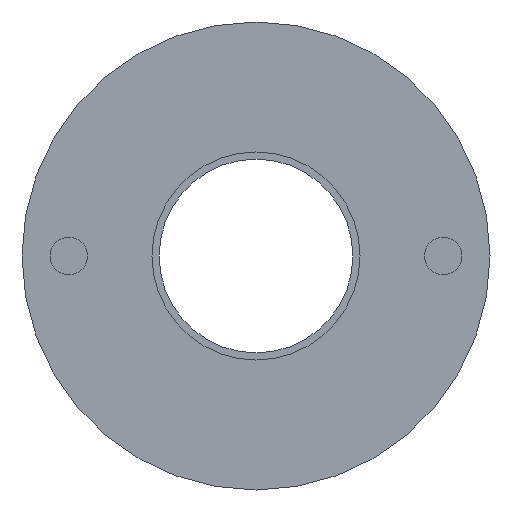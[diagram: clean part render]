
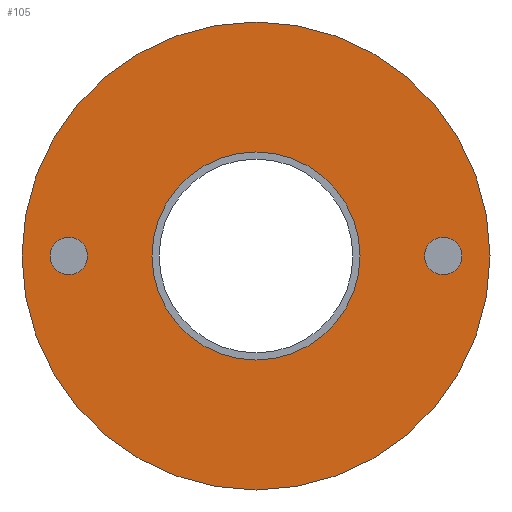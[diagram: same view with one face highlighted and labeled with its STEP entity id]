
A CAD part, left-side view. The second image highlights one B-rep face of the part: STEP entity #105.
In plain terms, the highlighted planar face has unit normal (-1, 0, 0).
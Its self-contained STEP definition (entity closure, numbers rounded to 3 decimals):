
#22 = VERTEX_POINT('',#23);
#23 = CARTESIAN_POINT('',(600.,100.,-553.3));
#32 = CYLINDRICAL_SURFACE('',#33,100.);
#33 = AXIS2_PLACEMENT_3D('',#34,#35,#36);
#34 = CARTESIAN_POINT('',(600.,0.,-553.3));
#35 = DIRECTION('',(-1.,-0.,-0.));
#36 = DIRECTION('',(0.,1.,0.));
#79 = EDGE_CURVE('',#22,#22,#80,.T.);
#80 = SURFACE_CURVE('',#81,(#86,#93),.PCURVE_S1.);
#81 = CIRCLE('',#82,100.);
#82 = AXIS2_PLACEMENT_3D('',#83,#84,#85);
#83 = CARTESIAN_POINT('',(600.,0.,-553.3));
#84 = DIRECTION('',(1.,0.,0.));
#85 = DIRECTION('',(0.,1.,0.));
#86 = PCURVE('',#32,#87);
#87 = DEFINITIONAL_REPRESENTATION('',(#88),#92);
#88 = LINE('',#89,#90);
#89 = CARTESIAN_POINT('',(-0.,0.));
#90 = VECTOR('',#91,1.);
#91 = DIRECTION('',(-1.,0.));
#92 = ( GEOMETRIC_REPRESENTATION_CONTEXT(2) 
PARAMETRIC_REPRESENTATION_CONTEXT() REPRESENTATION_CONTEXT('2D SPACE',''
  ) );
#93 = PCURVE('',#94,#99);
#94 = PLANE('',#95);
#95 = AXIS2_PLACEMENT_3D('',#96,#97,#98);
#96 = CARTESIAN_POINT('',(600.,0.,-553.3));
#97 = DIRECTION('',(1.,0.,0.));
#98 = DIRECTION('',(-0.,0.,1.));
#99 = DEFINITIONAL_REPRESENTATION('',(#100),#104);
#100 = CIRCLE('',#101,100.);
#101 = AXIS2_PLACEMENT_2D('',#102,#103);
#102 = CARTESIAN_POINT('',(0.,0.));
#103 = DIRECTION('',(0.,-1.));
#104 = ( GEOMETRIC_REPRESENTATION_CONTEXT(2) 
PARAMETRIC_REPRESENTATION_CONTEXT() REPRESENTATION_CONTEXT('2D SPACE',''
  ) );
#105 = ADVANCED_FACE('',(#106,#109,#144,#175),#94,.F.);
#106 = FACE_BOUND('',#107,.F.);
#107 = EDGE_LOOP('',(#108));
#108 = ORIENTED_EDGE('',*,*,#79,.T.);
#109 = FACE_BOUND('',#110,.F.);
#110 = EDGE_LOOP('',(#111));
#111 = ORIENTED_EDGE('',*,*,#112,.T.);
#112 = EDGE_CURVE('',#113,#113,#115,.T.);
#113 = VERTEX_POINT('',#114);
#114 = CARTESIAN_POINT('',(600.,88.,-553.3));
#115 = SURFACE_CURVE('',#116,(#121,#132),.PCURVE_S1.);
#116 = CIRCLE('',#117,8.);
#117 = AXIS2_PLACEMENT_3D('',#118,#119,#120);
#118 = CARTESIAN_POINT('',(600.,80.,-553.3));
#119 = DIRECTION('',(-1.,0.,0.));
#120 = DIRECTION('',(0.,1.,0.));
#121 = PCURVE('',#94,#122);
#122 = DEFINITIONAL_REPRESENTATION('',(#123),#131);
#123 = ( BOUNDED_CURVE() B_SPLINE_CURVE(2,(#124,#125,#126,#127,#128,#129
,#130),.UNSPECIFIED.,.T.,.F.) B_SPLINE_CURVE_WITH_KNOTS((1,2,2,2,2,1),(
    -2.094,0.,2.094,4.189,6.283,
8.378),.UNSPECIFIED.) CURVE() GEOMETRIC_REPRESENTATION_ITEM() 
RATIONAL_B_SPLINE_CURVE((1.,0.5,1.,0.5,1.,0.5,1.)) REPRESENTATION_ITEM(
  '') );
#124 = CARTESIAN_POINT('',(0.,-88.));
#125 = CARTESIAN_POINT('',(-13.856,-88.));
#126 = CARTESIAN_POINT('',(-6.928,-76.));
#127 = CARTESIAN_POINT('',(0.,-64.));
#128 = CARTESIAN_POINT('',(6.928,-76.));
#129 = CARTESIAN_POINT('',(13.856,-88.));
#130 = CARTESIAN_POINT('',(0.,-88.));
#131 = ( GEOMETRIC_REPRESENTATION_CONTEXT(2) 
PARAMETRIC_REPRESENTATION_CONTEXT() REPRESENTATION_CONTEXT('2D SPACE',''
  ) );
#132 = PCURVE('',#133,#138);
#133 = CYLINDRICAL_SURFACE('',#134,8.);
#134 = AXIS2_PLACEMENT_3D('',#135,#136,#137);
#135 = CARTESIAN_POINT('',(588.,80.,-553.3));
#136 = DIRECTION('',(-1.,-0.,-0.));
#137 = DIRECTION('',(0.,1.,0.));
#138 = DEFINITIONAL_REPRESENTATION('',(#139),#143);
#139 = LINE('',#140,#141);
#140 = CARTESIAN_POINT('',(-6.283,-12.));
#141 = VECTOR('',#142,1.);
#142 = DIRECTION('',(1.,-0.));
#143 = ( GEOMETRIC_REPRESENTATION_CONTEXT(2) 
PARAMETRIC_REPRESENTATION_CONTEXT() REPRESENTATION_CONTEXT('2D SPACE',''
  ) );
#144 = FACE_BOUND('',#145,.F.);
#145 = EDGE_LOOP('',(#146));
#146 = ORIENTED_EDGE('',*,*,#147,.F.);
#147 = EDGE_CURVE('',#148,#148,#150,.T.);
#148 = VERTEX_POINT('',#149);
#149 = CARTESIAN_POINT('',(600.,44.45,-553.3));
#150 = SURFACE_CURVE('',#151,(#156,#163),.PCURVE_S1.);
#151 = CIRCLE('',#152,44.45);
#152 = AXIS2_PLACEMENT_3D('',#153,#154,#155);
#153 = CARTESIAN_POINT('',(600.,0.,-553.3));
#154 = DIRECTION('',(1.,0.,0.));
#155 = DIRECTION('',(0.,1.,0.));
#156 = PCURVE('',#94,#157);
#157 = DEFINITIONAL_REPRESENTATION('',(#158),#162);
#158 = CIRCLE('',#159,44.45);
#159 = AXIS2_PLACEMENT_2D('',#160,#161);
#160 = CARTESIAN_POINT('',(0.,0.));
#161 = DIRECTION('',(0.,-1.));
#162 = ( GEOMETRIC_REPRESENTATION_CONTEXT(2) 
PARAMETRIC_REPRESENTATION_CONTEXT() REPRESENTATION_CONTEXT('2D SPACE',''
  ) );
#163 = PCURVE('',#164,#169);
#164 = CYLINDRICAL_SURFACE('',#165,44.45);
#165 = AXIS2_PLACEMENT_3D('',#166,#167,#168);
#166 = CARTESIAN_POINT('',(600.,0.,-553.3));
#167 = DIRECTION('',(-1.,-0.,-0.));
#168 = DIRECTION('',(0.,1.,0.));
#169 = DEFINITIONAL_REPRESENTATION('',(#170),#174);
#170 = LINE('',#171,#172);
#171 = CARTESIAN_POINT('',(-0.,0.));
#172 = VECTOR('',#173,1.);
#173 = DIRECTION('',(-1.,0.));
#174 = ( GEOMETRIC_REPRESENTATION_CONTEXT(2) 
PARAMETRIC_REPRESENTATION_CONTEXT() REPRESENTATION_CONTEXT('2D SPACE',''
  ) );
#175 = FACE_BOUND('',#176,.F.);
#176 = EDGE_LOOP('',(#177));
#177 = ORIENTED_EDGE('',*,*,#178,.T.);
#178 = EDGE_CURVE('',#179,#179,#181,.T.);
#179 = VERTEX_POINT('',#180);
#180 = CARTESIAN_POINT('',(600.,-72.,-553.3));
#181 = SURFACE_CURVE('',#182,(#187,#198),.PCURVE_S1.);
#182 = CIRCLE('',#183,8.);
#183 = AXIS2_PLACEMENT_3D('',#184,#185,#186);
#184 = CARTESIAN_POINT('',(600.,-80.,-553.3));
#185 = DIRECTION('',(-1.,0.,0.));
#186 = DIRECTION('',(0.,1.,0.));
#187 = PCURVE('',#94,#188);
#188 = DEFINITIONAL_REPRESENTATION('',(#189),#197);
#189 = ( BOUNDED_CURVE() B_SPLINE_CURVE(2,(#190,#191,#192,#193,#194,#195
,#196),.UNSPECIFIED.,.T.,.F.) B_SPLINE_CURVE_WITH_KNOTS((1,2,2,2,2,1),(
    -2.094,0.,2.094,4.189,6.283,
8.378),.UNSPECIFIED.) CURVE() GEOMETRIC_REPRESENTATION_ITEM() 
RATIONAL_B_SPLINE_CURVE((1.,0.5,1.,0.5,1.,0.5,1.)) REPRESENTATION_ITEM(
  '') );
#190 = CARTESIAN_POINT('',(0.,72.));
#191 = CARTESIAN_POINT('',(-13.856,72.));
#192 = CARTESIAN_POINT('',(-6.928,84.));
#193 = CARTESIAN_POINT('',(0.,96.));
#194 = CARTESIAN_POINT('',(6.928,84.));
#195 = CARTESIAN_POINT('',(13.856,72.));
#196 = CARTESIAN_POINT('',(0.,72.));
#197 = ( GEOMETRIC_REPRESENTATION_CONTEXT(2) 
PARAMETRIC_REPRESENTATION_CONTEXT() REPRESENTATION_CONTEXT('2D SPACE',''
  ) );
#198 = PCURVE('',#199,#204);
#199 = CYLINDRICAL_SURFACE('',#200,8.);
#200 = AXIS2_PLACEMENT_3D('',#201,#202,#203);
#201 = CARTESIAN_POINT('',(588.,-80.,-553.3));
#202 = DIRECTION('',(-1.,-0.,-0.));
#203 = DIRECTION('',(0.,1.,0.));
#204 = DEFINITIONAL_REPRESENTATION('',(#205),#209);
#205 = LINE('',#206,#207);
#206 = CARTESIAN_POINT('',(-6.283,-12.));
#207 = VECTOR('',#208,1.);
#208 = DIRECTION('',(1.,-0.));
#209 = ( GEOMETRIC_REPRESENTATION_CONTEXT(2) 
PARAMETRIC_REPRESENTATION_CONTEXT() REPRESENTATION_CONTEXT('2D SPACE',''
  ) );
